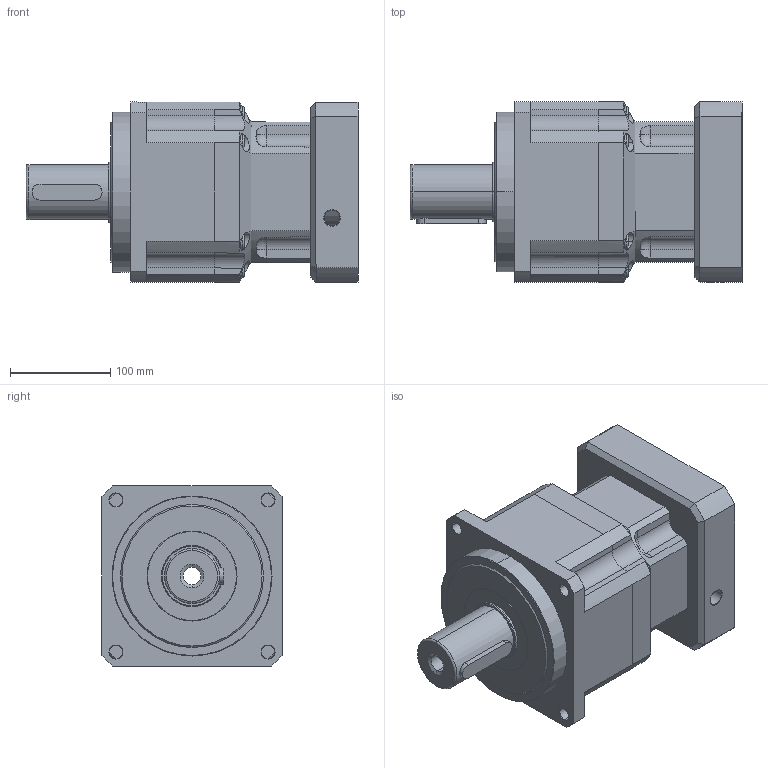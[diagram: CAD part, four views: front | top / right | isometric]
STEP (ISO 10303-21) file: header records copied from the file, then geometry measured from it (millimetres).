
FILE_DESCRIPTION (( 'STEP AP203' ), '1' );
FILE_NAME ('AB-180-L2-35J10-114.3-200-M12-TÐÍ .STEP', '2025-05-20T09:02:47', ( 'Microsoft' ), ( 'Microsoft' ), 'SwSTEP 2.0', 'SolidWorks 2016', '' );
FILE_SCHEMA (( 'CONFIG_CONTROL_DESIGN' ));
Length unit declared in the file: millimetre
Products named in the file (1): AB-180-L2-35J10-114.3-200-M12-T倰 
Bounding box: 332 x 180 x 180 mm (x, y, z)
Surface area: 313658.6 mm2 (no closed solid volume)
Topology: 0 solids, 25 shells, 440 faces, 1328 edges, 869 vertices
Faces by surface type: plane 193, cylinder 134, cone 73, torus 40
Entity records: 16390 total; most frequent: CARTESIAN_POINT 4924, ORIENTED_EDGE 2323, DIRECTION 2293, EDGE_CURVE 1300, AXIS2_PLACEMENT_3D 873, VERTEX_POINT 869, VECTOR 547, LINE 547
